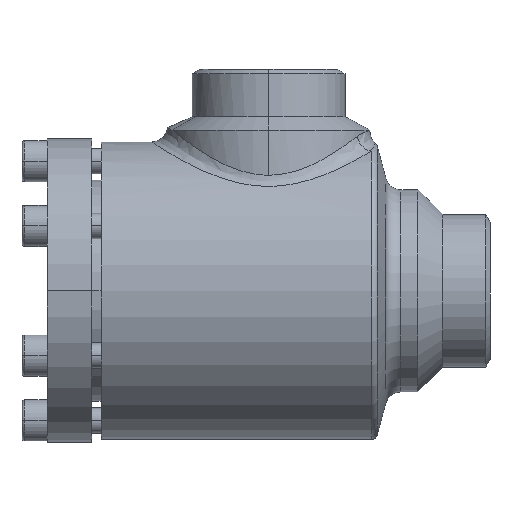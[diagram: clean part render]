
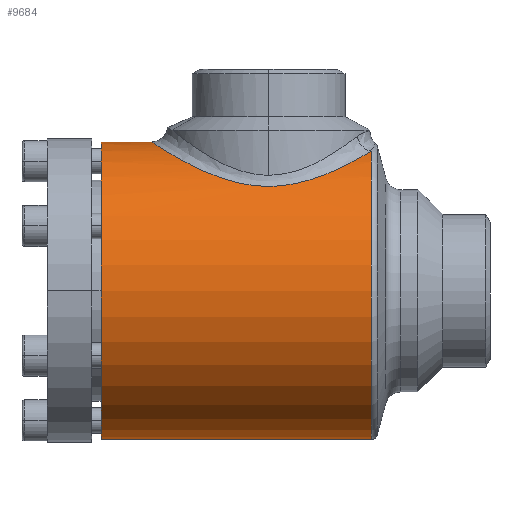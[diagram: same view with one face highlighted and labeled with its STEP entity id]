
A CAD part, left-side view. The second image highlights one B-rep face of the part: STEP entity #9684.
In plain terms, the highlighted cylindrical face has radius 47 mm (diameter 94 mm), a partial arc.
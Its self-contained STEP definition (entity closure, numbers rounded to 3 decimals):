
#372 = VERTEX_POINT ( 'NONE', #10948 ) ;
#505 = VERTEX_POINT ( 'NONE', #11813 ) ;
#515 = EDGE_CURVE ( 'NONE', #505, #10006, #12059, .T. ) ;
#586 = CIRCLE ( 'NONE', #587, 47. ) ;
#587 = AXIS2_PLACEMENT_3D ( 'NONE', #588, #589, #590 ) ;
#588 = CARTESIAN_POINT ( 'NONE',  ( 0., -85.446, 0. ) ) ;
#589 = DIRECTION ( 'NONE',  ( 0., 1., 0. ) ) ;
#590 = DIRECTION ( 'NONE',  ( 0., 0., -1. ) ) ;
#4916 = VERTEX_POINT ( 'NONE', #10912 ) ;
#5119 = EDGE_CURVE ( 'NONE', #372, #4916, #11166, .T. ) ;
#7148 = EDGE_CURVE ( 'NONE', #7969, #505, #10990, .T. ) ;
#7490 = ORIENTED_EDGE ( 'NONE', *, *, #7148, .T. ) ;
#7797 = EDGE_CURVE ( 'NONE', #4916, #10006, #11720, .T. ) ;
#7969 = VERTEX_POINT ( 'NONE', #11920 ) ;
#8141 = ORIENTED_EDGE ( 'NONE', *, *, #7797, .F. ) ;
#8175 = EDGE_CURVE ( 'NONE', #372, #7969, #586, .T. ) ;
#8511 = ORIENTED_EDGE ( 'NONE', *, *, #8175, .T. ) ;
#8579 = ORIENTED_EDGE ( 'NONE', *, *, #515, .T. ) ;
#8982 = ORIENTED_EDGE ( 'NONE', *, *, #5119, .F. ) ;
#9462 = EDGE_LOOP ( 'NONE', ( #8982, #8511, #7490, #8579, #8141 ) ) ;
#9684 = ADVANCED_FACE ( 'NONE', ( #11412 ), #11413, .T. ) ;
#10006 = VERTEX_POINT ( 'NONE', #11778 ) ;
#10912 = CARTESIAN_POINT ( 'NONE',  ( 0., 0., -47. ) ) ;
#10948 = CARTESIAN_POINT ( 'NONE',  ( 0., -85.446, -47. ) ) ;
#10990 = B_SPLINE_CURVE_WITH_KNOTS ( 'NONE', 3,
 ( #10991, #10992, #10993, #10994, #10995, #10996, #10997, #10998, #10999, #11000, #11003, #11004, #11005, #11006, #11007, #11008, #11009, #11010, #11011, #11012, #11013, #11014, #11015, #11016, #11017, #11018, #11019, #11020, #11021, #11022, #11023, #11024, #11025, #11026, #11027, #11028, #11029, #11030, #11031, #11032, #11033, #11034, #11036, #11037, #11038, #11039, #11040, #11041, #11042, #11043, #11044, #11045, #11046, #11047, #11048, #11049, #11050, #11051, #11053, #11054, #11055, #11056 ),
 .UNSPECIFIED., .F., .F.,
 ( 4, 2, 2, 2, 2, 2, 2, 2, 2, 2, 2, 2, 2, 2, 2, 2, 2, 2, 2, 2, 2, 2, 2, 2, 2, 2, 2, 2, 2, 2, 4 ),
 ( 0.017, 0.023, 0.026, 0.029, 0.035, 0.039, 0.04, 0.042, 0.048, 0.051, 0.052, 0.054, 0.06, 0.063, 0.066, 0.069, 0.072, 0.078, 0.081, 0.083, 0.084, 0.09, 0.093, 0.095, 0.096, 0.103, 0.106, 0.107, 0.109, 0.112, 0.115 ),
 .UNSPECIFIED. ) ;
#10991 = CARTESIAN_POINT ( 'NONE',  ( -16.073, -85.446, 44.166 ) ) ;
#10992 = CARTESIAN_POINT ( 'NONE',  ( -17.749, -84.43, 43.556 ) ) ;
#10993 = CARTESIAN_POINT ( 'NONE',  ( -19.293, -83.29, 42.887 ) ) ;
#10994 = CARTESIAN_POINT ( 'NONE',  ( -21.444, -81.41, 41.831 ) ) ;
#10995 = CARTESIAN_POINT ( 'NONE',  ( -22.133, -80.755, 41.469 ) ) ;
#10996 = CARTESIAN_POINT ( 'NONE',  ( -23.459, -79.389, 40.734 ) ) ;
#10997 = CARTESIAN_POINT ( 'NONE',  ( -24.096, -78.676, 40.359 ) ) ;
#10998 = CARTESIAN_POINT ( 'NONE',  ( -25.907, -76.48, 39.24 ) ) ;
#10999 = CARTESIAN_POINT ( 'NONE',  ( -26.989, -74.936, 38.497 ) ) ;
#11000 = CARTESIAN_POINT ( 'NONE',  ( -28.44, -72.491, 37.424 ) ) ;
#11003 = CARTESIAN_POINT ( 'NONE',  ( -28.894, -71.655, 37.073 ) ) ;
#11004 = CARTESIAN_POINT ( 'NONE',  ( -29.533, -70.366, 36.563 ) ) ;
#11005 = CARTESIAN_POINT ( 'NONE',  ( -29.739, -69.93, 36.396 ) ) ;
#11006 = CARTESIAN_POINT ( 'NONE',  ( -30.137, -69.047, 36.067 ) ) ;
#11007 = CARTESIAN_POINT ( 'NONE',  ( -30.328, -68.599, 35.906 ) ) ;
#11008 = CARTESIAN_POINT ( 'NONE',  ( -31.243, -66.344, 35.126 ) ) ;
#11009 = CARTESIAN_POINT ( 'NONE',  ( -31.842, -64.482, 34.576 ) ) ;
#11010 = CARTESIAN_POINT ( 'NONE',  ( -32.541, -61.591, 33.914 ) ) ;
#11011 = CARTESIAN_POINT ( 'NONE',  ( -32.74, -60.61, 33.721 ) ) ;
#11012 = CARTESIAN_POINT ( 'NONE',  ( -32.986, -59.111, 33.48 ) ) ;
#11013 = CARTESIAN_POINT ( 'NONE',  ( -33.059, -58.608, 33.408 ) ) ;
#11014 = CARTESIAN_POINT ( 'NONE',  ( -33.186, -57.603, 33.282 ) ) ;
#11015 = CARTESIAN_POINT ( 'NONE',  ( -33.239, -57.1, 33.229 ) ) ;
#11016 = CARTESIAN_POINT ( 'NONE',  ( -33.462, -54.583, 33.006 ) ) ;
#11017 = CARTESIAN_POINT ( 'NONE',  ( -33.49, -52.562, 32.976 ) ) ;
#11018 = CARTESIAN_POINT ( 'NONE',  ( -33.307, -49.52, 33.161 ) ) ;
#11019 = CARTESIAN_POINT ( 'NONE',  ( -33.207, -48.498, 33.262 ) ) ;
#11020 = CARTESIAN_POINT ( 'NONE',  ( -32.933, -46.49, 33.532 ) ) ;
#11021 = CARTESIAN_POINT ( 'NONE',  ( -32.761, -45.501, 33.702 ) ) ;
#11022 = CARTESIAN_POINT ( 'NONE',  ( -32.346, -43.55, 34.1 ) ) ;
#11023 = CARTESIAN_POINT ( 'NONE',  ( -32.103, -42.587, 34.33 ) ) ;
#11024 = CARTESIAN_POINT ( 'NONE',  ( -31.549, -40.688, 34.839 ) ) ;
#11025 = CARTESIAN_POINT ( 'NONE',  ( -31.237, -39.749, 35.121 ) ) ;
#11026 = CARTESIAN_POINT ( 'NONE',  ( -30.211, -37.009, 36.016 ) ) ;
#11027 = CARTESIAN_POINT ( 'NONE',  ( -29.406, -35.272, 36.683 ) ) ;
#11028 = CARTESIAN_POINT ( 'NONE',  ( -28.021, -32.781, 37.738 ) ) ;
#11029 = CARTESIAN_POINT ( 'NONE',  ( -27.529, -31.97, 38.099 ) ) ;
#11030 = CARTESIAN_POINT ( 'NONE',  ( -26.744, -30.781, 38.65 ) ) ;
#11031 = CARTESIAN_POINT ( 'NONE',  ( -26.475, -30.389, 38.835 ) ) ;
#11032 = CARTESIAN_POINT ( 'NONE',  ( -25.92, -29.615, 39.208 ) ) ;
#11033 = CARTESIAN_POINT ( 'NONE',  ( -25.634, -29.233, 39.396 ) ) ;
#11034 = CARTESIAN_POINT ( 'NONE',  ( -24.175, -27.357, 40.33 ) ) ;
#11036 = CARTESIAN_POINT ( 'NONE',  ( -22.902, -25.964, 41.072 ) ) ;
#11037 = CARTESIAN_POINT ( 'NONE',  ( -20.822, -24.029, 42.143 ) ) ;
#11038 = CARTESIAN_POINT ( 'NONE',  ( -20.099, -23.411, 42.494 ) ) ;
#11039 = CARTESIAN_POINT ( 'NONE',  ( -18.969, -22.523, 43.004 ) ) ;
#11040 = CARTESIAN_POINT ( 'NONE',  ( -18.584, -22.235, 43.172 ) ) ;
#11041 = CARTESIAN_POINT ( 'NONE',  ( -17.798, -21.671, 43.502 ) ) ;
#11042 = CARTESIAN_POINT ( 'NONE',  ( -17.396, -21.396, 43.664 ) ) ;
#11043 = CARTESIAN_POINT ( 'NONE',  ( -15.356, -20.064, 44.455 ) ) ;
#11044 = CARTESIAN_POINT ( 'NONE',  ( -13.635, -19.147, 45.018 ) ) ;
#11045 = CARTESIAN_POINT ( 'NONE',  ( -10.906, -18.006, 45.727 ) ) ;
#11046 = CARTESIAN_POINT ( 'NONE',  ( -9.972, -17.666, 45.94 ) ) ;
#11047 = CARTESIAN_POINT ( 'NONE',  ( -8.53, -17.219, 46.222 ) ) ;
#11048 = CARTESIAN_POINT ( 'NONE',  ( -8.041, -17.081, 46.31 ) ) ;
#11049 = CARTESIAN_POINT ( 'NONE',  ( -7.058, -16.829, 46.47 ) ) ;
#11050 = CARTESIAN_POINT ( 'NONE',  ( -6.563, -16.715, 46.542 ) ) ;
#11051 = CARTESIAN_POINT ( 'NONE',  ( -5.066, -16.41, 46.737 ) ) ;
#11053 = CARTESIAN_POINT ( 'NONE',  ( -4.049, -16.255, 46.836 ) ) ;
#11054 = CARTESIAN_POINT ( 'NONE',  ( -2.024, -16.051, 46.967 ) ) ;
#11055 = CARTESIAN_POINT ( 'NONE',  ( -1.011, -16., 47. ) ) ;
#11056 = CARTESIAN_POINT ( 'NONE',  ( 0., -16., 47. ) ) ;
#11166 = LINE ( 'NONE', #11167, #11168 ) ;
#11167 = CARTESIAN_POINT ( 'NONE',  ( 0., -91., -47. ) ) ;
#11168 = VECTOR ( 'NONE', #11169, 1000. ) ;
#11169 = DIRECTION ( 'NONE',  ( 0., 1., 0. ) ) ;
#11412 = FACE_OUTER_BOUND ( 'NONE', #9462, .T. ) ;
#11413 = CYLINDRICAL_SURFACE ( 'NONE', #11414, 47. ) ;
#11414 = AXIS2_PLACEMENT_3D ( 'NONE', #11415, #11416, #11417 ) ;
#11415 = CARTESIAN_POINT ( 'NONE',  ( 0., -91., 0. ) ) ;
#11416 = DIRECTION ( 'NONE',  ( 0., 1., 0. ) ) ;
#11417 = DIRECTION ( 'NONE',  ( 0., 0., 1. ) ) ;
#11720 = CIRCLE ( 'NONE', #11721, 47. ) ;
#11721 = AXIS2_PLACEMENT_3D ( 'NONE', #11722, #11723, #11724 ) ;
#11722 = CARTESIAN_POINT ( 'NONE',  ( 0., 0., 0. ) ) ;
#11723 = DIRECTION ( 'NONE',  ( 0., 1., 0. ) ) ;
#11724 = DIRECTION ( 'NONE',  ( 0., 0., 1. ) ) ;
#11778 = CARTESIAN_POINT ( 'NONE',  ( 0., 0., 47. ) ) ;
#11813 = CARTESIAN_POINT ( 'NONE',  ( 0., -16., 47. ) ) ;
#11920 = CARTESIAN_POINT ( 'NONE',  ( -16.073, -85.446, 44.166 ) ) ;
#12059 = LINE ( 'NONE', #12060, #12061 ) ;
#12060 = CARTESIAN_POINT ( 'NONE',  ( 0., -91., 47. ) ) ;
#12061 = VECTOR ( 'NONE', #12062, 1000. ) ;
#12062 = DIRECTION ( 'NONE',  ( 0., 1., 0. ) ) ;
